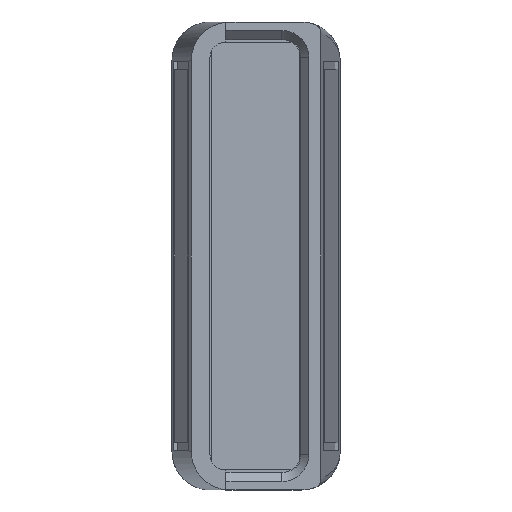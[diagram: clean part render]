
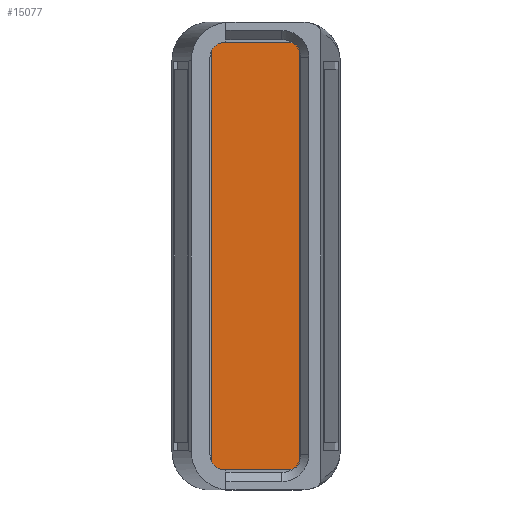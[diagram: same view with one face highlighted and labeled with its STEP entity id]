
A CAD part, left-side view. The second image highlights one B-rep face of the part: STEP entity #15077.
In plain terms, the highlighted planar face has unit normal (-1, 0, 0) as drawn and (0, 0, 1) by its records, which use the part's own axes.
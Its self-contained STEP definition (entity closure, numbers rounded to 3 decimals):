
#247 = CARTESIAN_POINT ( 'NONE',  ( -27.65, -4.55, 0. ) ) ;
#348 = EDGE_CURVE ( 'NONE', #12023, #15006, #3099, .T. ) ;
#397 = DIRECTION ( 'NONE',  ( 1., 0., 0. ) ) ;
#548 = CIRCLE ( 'NONE', #1735, 1.2 ) ;
#670 = ORIENTED_EDGE ( 'NONE', *, *, #12746, .T. ) ;
#962 = DIRECTION ( 'NONE',  ( 1., 0., 0. ) ) ;
#1236 = VECTOR ( 'NONE', #13944, 1000. ) ;
#1735 = AXIS2_PLACEMENT_3D ( 'NONE', #14100, #3934, #15807 ) ;
#1910 = EDGE_CURVE ( 'NONE', #12998, #19615, #18500, .T. ) ;
#1968 = AXIS2_PLACEMENT_3D ( 'NONE', #4274, #16167, #6017 ) ;
#2059 = DIRECTION ( 'NONE',  ( 0., 0., 1. ) ) ;
#2109 = AXIS2_PLACEMENT_3D ( 'NONE', #7154, #19012, #8861 ) ;
#3099 = LINE ( 'NONE', #15541, #20591 ) ;
#3911 = ORIENTED_EDGE ( 'NONE', *, *, #1910, .T. ) ;
#3934 = DIRECTION ( 'NONE',  ( 0., 0., 1. ) ) ;
#4274 = CARTESIAN_POINT ( 'NONE',  ( -26.45, -4.55, 0. ) ) ;
#4372 = CARTESIAN_POINT ( 'NONE',  ( 27.65, 4.25, 0. ) ) ;
#4579 = CARTESIAN_POINT ( 'NONE',  ( -26.45, -5.75, 0. ) ) ;
#4596 = VERTEX_POINT ( 'NONE', #13755 ) ;
#5036 = EDGE_CURVE ( 'NONE', #19615, #12023, #14464, .T. ) ;
#5194 = CARTESIAN_POINT ( 'NONE',  ( 26.15, 5.75, 0. ) ) ;
#5561 = CARTESIAN_POINT ( 'NONE',  ( 27.65, 5.75, 0. ) ) ;
#5764 = LINE ( 'NONE', #5561, #1236 ) ;
#6017 = DIRECTION ( 'NONE',  ( 1., 0., 0. ) ) ;
#6701 = CIRCLE ( 'NONE', #15672, 1.5 ) ;
#6918 = AXIS2_PLACEMENT_3D ( 'NONE', #8871, #2059, #397 ) ;
#7154 = CARTESIAN_POINT ( 'NONE',  ( -26.15, 4.25, 0. ) ) ;
#8008 = ORIENTED_EDGE ( 'NONE', *, *, #21660, .T. ) ;
#8182 = CARTESIAN_POINT ( 'NONE',  ( -26.15, 5.75, 0. ) ) ;
#8402 = ORIENTED_EDGE ( 'NONE', *, *, #8707, .T. ) ;
#8707 = EDGE_CURVE ( 'NONE', #10224, #15374, #5764, .T. ) ;
#8749 = ORIENTED_EDGE ( 'NONE', *, *, #5036, .T. ) ;
#8861 = DIRECTION ( 'NONE',  ( 1., 0., 0. ) ) ;
#8871 = CARTESIAN_POINT ( 'NONE',  ( 0., 0., 0. ) ) ;
#9279 = ORIENTED_EDGE ( 'NONE', *, *, #18136, .T. ) ;
#9460 = VECTOR ( 'NONE', #14997, 1000. ) ;
#9561 = VECTOR ( 'NONE', #20229, 1000. ) ;
#10224 = VERTEX_POINT ( 'NONE', #12934 ) ;
#10588 = PLANE ( 'NONE',  #6918 ) ;
#10639 = LINE ( 'NONE', #18538, #9561 ) ;
#10984 = FACE_OUTER_BOUND ( 'NONE', #19248, .T. ) ;
#11154 = DIRECTION ( 'NONE',  ( 0., 0., 1. ) ) ;
#11741 = ORIENTED_EDGE ( 'NONE', *, *, #22015, .T. ) ;
#12023 = VERTEX_POINT ( 'NONE', #12265 ) ;
#12265 = CARTESIAN_POINT ( 'NONE',  ( -27.65, 4.25, 0. ) ) ;
#12746 = EDGE_CURVE ( 'NONE', #15374, #12998, #6701, .T. ) ;
#12934 = CARTESIAN_POINT ( 'NONE',  ( 27.65, -4.55, 0. ) ) ;
#12998 = VERTEX_POINT ( 'NONE', #5194 ) ;
#13318 = CARTESIAN_POINT ( 'NONE',  ( -27.65, 5.75, 0. ) ) ;
#13755 = CARTESIAN_POINT ( 'NONE',  ( 26.45, -5.75, 0. ) ) ;
#13944 = DIRECTION ( 'NONE',  ( 0., 1., 0. ) ) ;
#14100 = CARTESIAN_POINT ( 'NONE',  ( 26.45, -4.55, 0. ) ) ;
#14464 = CIRCLE ( 'NONE', #2109, 1.5 ) ;
#14997 = DIRECTION ( 'NONE',  ( -1., 0., 0. ) ) ;
#15006 = VERTEX_POINT ( 'NONE', #247 ) ;
#15077 = ADVANCED_FACE ( 'NONE', ( #10984 ), #10588, .T. ) ;
#15374 = VERTEX_POINT ( 'NONE', #4372 ) ;
#15541 = CARTESIAN_POINT ( 'NONE',  ( -27.65, 5.75, 0. ) ) ;
#15672 = AXIS2_PLACEMENT_3D ( 'NONE', #21282, #11154, #962 ) ;
#15807 = DIRECTION ( 'NONE',  ( 1., 0., 0. ) ) ;
#16167 = DIRECTION ( 'NONE',  ( 0., 0., 1. ) ) ;
#18136 = EDGE_CURVE ( 'NONE', #15006, #20210, #20979, .T. ) ;
#18500 = LINE ( 'NONE', #13318, #9460 ) ;
#18538 = CARTESIAN_POINT ( 'NONE',  ( -27.65, -5.75, 0. ) ) ;
#19012 = DIRECTION ( 'NONE',  ( 0., 0., 1. ) ) ;
#19248 = EDGE_LOOP ( 'NONE', ( #11741, #8008, #8402, #670, #3911, #8749, #20294, #9279 ) ) ;
#19615 = VERTEX_POINT ( 'NONE', #8182 ) ;
#20210 = VERTEX_POINT ( 'NONE', #4579 ) ;
#20229 = DIRECTION ( 'NONE',  ( 1., 0., 0. ) ) ;
#20294 = ORIENTED_EDGE ( 'NONE', *, *, #348, .T. ) ;
#20591 = VECTOR ( 'NONE', #21691, 1000. ) ;
#20979 = CIRCLE ( 'NONE', #1968, 1.2 ) ;
#21282 = CARTESIAN_POINT ( 'NONE',  ( 26.15, 4.25, 0. ) ) ;
#21660 = EDGE_CURVE ( 'NONE', #4596, #10224, #548, .T. ) ;
#21691 = DIRECTION ( 'NONE',  ( 0., -1., 0. ) ) ;
#22015 = EDGE_CURVE ( 'NONE', #20210, #4596, #10639, .T. ) ;
